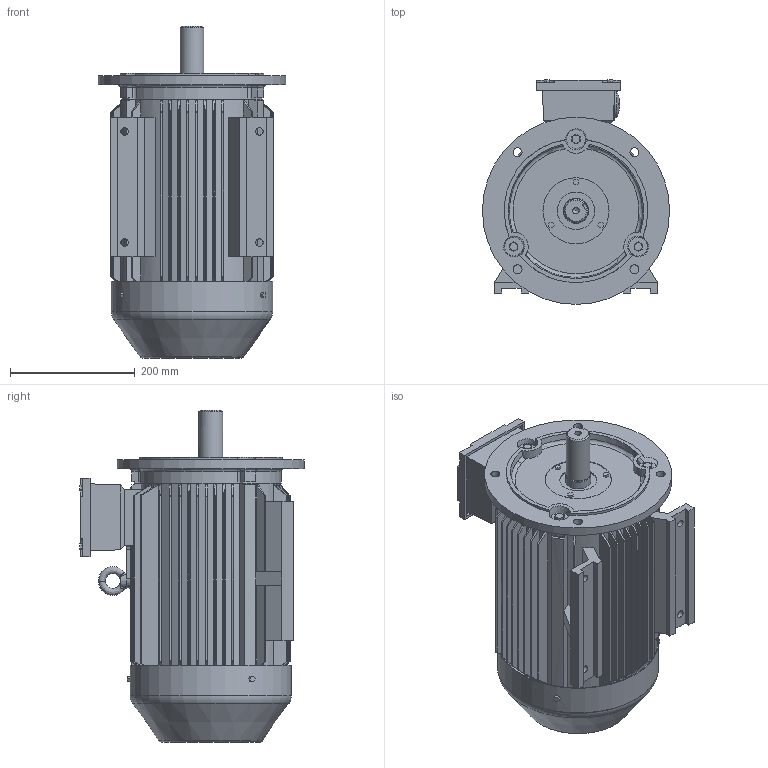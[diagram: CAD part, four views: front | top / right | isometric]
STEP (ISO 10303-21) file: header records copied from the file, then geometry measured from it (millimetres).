
FILE_DESCRIPTION(/* description */ (''),/* implementation_level */ '2;1');
FILE_NAME(/* name */ 'C:/Users/luigi_zhang/Desktop/temp/TE3-132M B35╢Ñ.step',/* time_stamp */ '2020-07-01T16:14:21+10:00',/* author */ (''),/* organization */ (''),/* preprocessor_version */ 'ST-DEVELOPER v18.1',/* originating_system */ 'Autodesk Translation Framework v9.3.0.1241',/* authorisation */ '');
FILE_SCHEMA (('AUTOMOTIVE_DESIGN { 1 0 10303 214 3 1 1 }'));
Products named in the file (8): (Unsaved); »ú×ùYX3-132M B3ÉÏ; GX132 P24 Í¹Ôµ¶Ë¸Ç; TE3-132 ·çÕÖ; TE3-132 ÖáÉì; GX112~132 P24½ÓÏßºÐ¸Ç; eyebolts gb_GB_FASTENER_SCREWS_FRS M10-N; hexagon head bolts--product grade c gb_GB_FASTENER_BOLT_HHBC M8X40-N
Assembly tree (9 placements, depth 2):
  (Unsaved)
    »ú×ùYX3-132M B3ÉÏ
    GX132 P24 Í¹Ôµ¶Ë¸Ç
    TE3-132 ·çÕÖ
    TE3-132 ÖáÉì
    GX112~132 P24½ÓÏßºÐ¸Ç
    eyebolts gb_GB_FASTENER_SCREWS_FRS M10-N
    hexagon head bolts--product grade c gb_GB_FASTENER_BOLT_HHBC M8X40-N  x3
Bounding box: 300 x 360.3 x 532 mm (x, y, z)
Volume: 16726804.1 mm3; surface area: 1381981.9 mm2
Topology: 9 solids, 14 shells, 1161 faces, 2825 edges, 1861 vertices
Faces by surface type: plane 882, cylinder 125, bspline 78, cone 50, torus 19, sphere 7
Full cylindrical faces by diameter (mm): 5 x4, 8 x7, 10 x5, 10.2 x1, 12 x4, 12.669 x1, 14.5 x4, 14.696 x1, 19.456 x1, 38 x1, 40 x2, 42.7 x1, 60 x1, 106 x1, 215 x1, 256.4 x1, 258.4 x1, 300 x1
Entity records: 54140 total; most frequent: CARTESIAN_POINT 27953, ORIENTED_EDGE 5496, DIRECTION 4837, EDGE_CURVE 2748, LINE 2055, VECTOR 2055, VERTEX_POINT 1815, AXIS2_PLACEMENT_3D 1391
